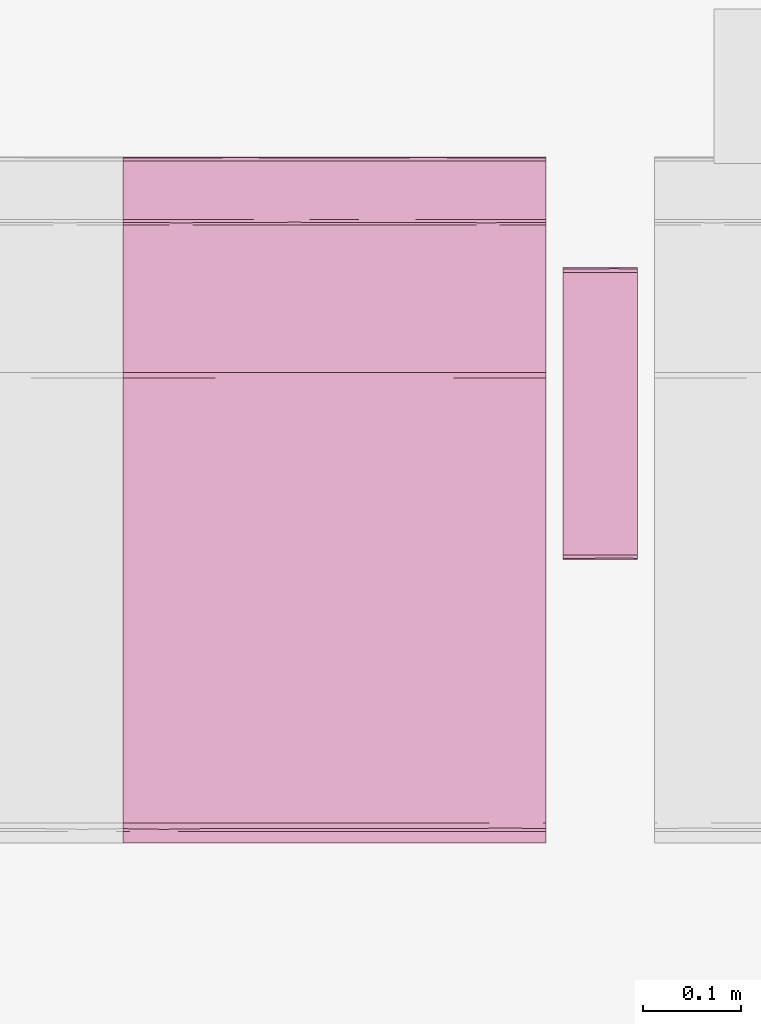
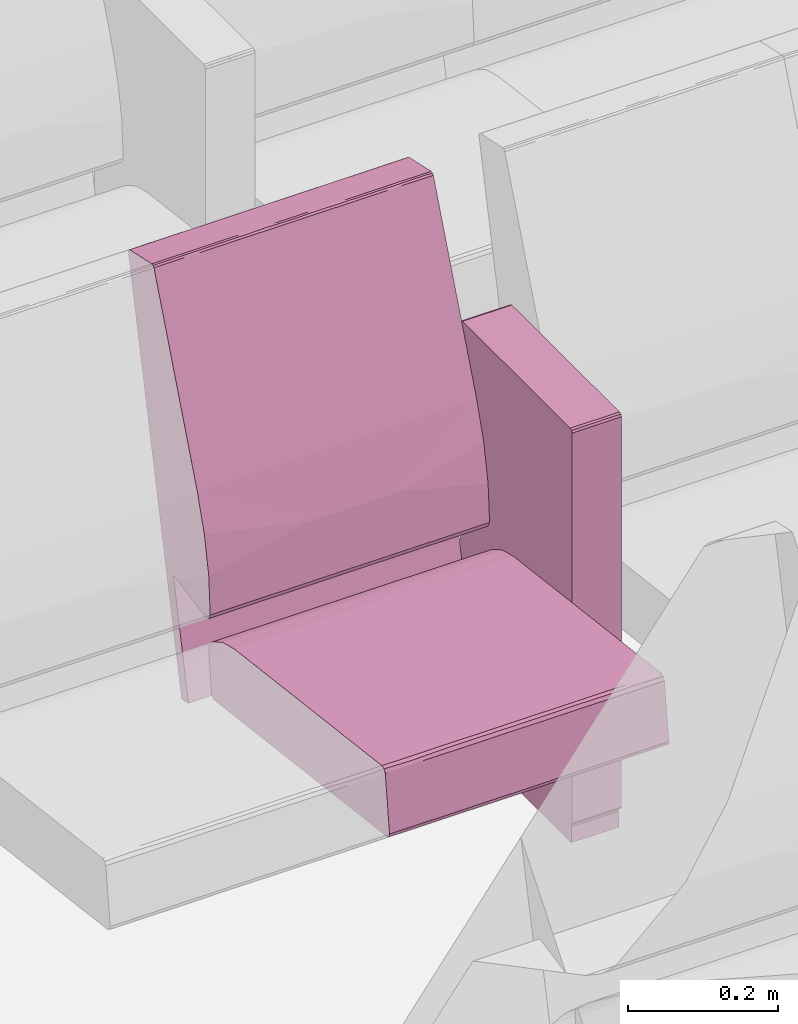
# One storey, part 98 of 155: 1 furnishing.
"""IFC2X3 building model written with IfcOpenShell, lengths in metres."""

from ifc_helpers import new_model, entity, si_unit, converted_unit, derived_unit, direction, frame, origin, place, context, subcontext, project, spatial, faceted_brep, source, transform, mapped, material, material_list, type_object, type_shapes, element, save


model = new_model("IFC2X3")

# Units and contexts
model_context = context("Model", 3, precision=1e-05, world=origin(), true_north=direction((6.12303176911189e-17, 1.0)))
body_context = subcontext(model_context, "Body", "Model", "MODEL_VIEW")
ifc_project = project(units=[si_unit("LENGTHUNIT", "METRE"), si_unit("AREAUNIT", "SQUARE_METRE"), si_unit("VOLUMEUNIT", "CUBIC_METRE"), converted_unit("PLANEANGLEUNIT", "DEGREE", entity("IfcRatioMeasure", 0.0174532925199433), si_unit("PLANEANGLEUNIT", "RADIAN"), dimensions=[0, 0, 0, 0, 0, 0, 0]), si_unit("MASSUNIT", "GRAM", prefix="KILO"), derived_unit("MASSDENSITYUNIT", [(si_unit("MASSUNIT", "GRAM", prefix="KILO"), 1), (si_unit("LENGTHUNIT", "METRE"), -3)]), si_unit("TIMEUNIT", "SECOND"), si_unit("FREQUENCYUNIT", "HERTZ"), si_unit("THERMODYNAMICTEMPERATUREUNIT", "DEGREE_CELSIUS"), derived_unit("THERMALTRANSMITTANCEUNIT", [(si_unit("MASSUNIT", "GRAM", prefix="KILO"), 1), (si_unit("THERMODYNAMICTEMPERATUREUNIT", "KELVIN"), -1), (si_unit("TIMEUNIT", "SECOND"), -3)]), derived_unit("VOLUMETRICFLOWRATEUNIT", [(si_unit("LENGTHUNIT", "METRE"), 3), (si_unit("TIMEUNIT", "SECOND"), -1)]), si_unit("ELECTRICCURRENTUNIT", "AMPERE"), si_unit("ELECTRICVOLTAGEUNIT", "VOLT"), si_unit("POWERUNIT", "WATT"), si_unit("FORCEUNIT", "NEWTON", prefix="KILO"), si_unit("ILLUMINANCEUNIT", "LUX"), si_unit("LUMINOUSFLUXUNIT", "LUMEN"), si_unit("LUMINOUSINTENSITYUNIT", "CANDELA"), derived_unit("USERDEFINED", [(si_unit("MASSUNIT", "GRAM", prefix="KILO"), -1), (si_unit("LENGTHUNIT", "METRE"), -2), (si_unit("TIMEUNIT", "SECOND"), 3), (si_unit("LUMINOUSFLUXUNIT", "LUMEN"), 1)]), derived_unit("LINEARVELOCITYUNIT", [(si_unit("LENGTHUNIT", "METRE"), 1), (si_unit("TIMEUNIT", "SECOND"), -1)]), si_unit("PRESSUREUNIT", "PASCAL"), derived_unit("USERDEFINED", [(si_unit("LENGTHUNIT", "METRE"), -2), (si_unit("MASSUNIT", "GRAM", prefix="KILO"), 1), (si_unit("TIMEUNIT", "SECOND"), -2)])], contexts=[model_context])

# Site, building, storey, space
site_placement = place(None, frame((26.9889013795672, -17.5624287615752, 0.0)))
site = spatial("IfcSite", under=ifc_project, at=site_placement, Name="Default", CompositionType="ELEMENT")
building_placement = place(site_placement, origin())
building = spatial("IfcBuilding", under=site, at=building_placement, Name="C. C. L. Monsenhor Antônio Sampaio", CompositionType="ELEMENT")
storey_placement = place(building_placement, frame((0.0, 0.0, 1.19999999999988)))
storey = spatial("IfcBuildingStorey", under=building, at=storey_placement, Name="Nível 1.2", CompositionType="ELEMENT", Elevation=1.19999999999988)
space_placement = place(storey_placement, origin())
space = spatial("IfcSpace", under=storey, at=space_placement, Name="94", CompositionType="ELEMENT", InteriorOrExteriorSpace="INTERNAL")

# Furnishing
ifc_material_1 = material(Name="V9 - V9 - Ecopelle_672_658")
ifc_material_2 = material(Name="V9 - V9 - RAL_9006_Grigio")
ifc_material_list_1 = material_list([ifc_material_1, ifc_material_2])
ifc_material_list_2 = material_list([ifc_material_1, ifc_material_2])
furniture_type = type_object("IfcFurnitureType", Name="Cadeira auditório", material=ifc_material_list_2)
shared_shape = source(origin(), body_context, "Body", "Brep", [
    faceted_brep([(0.405536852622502, -0.1075, 0.339809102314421), (0.410560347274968, -0.131924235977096, 0.34246450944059), (0.405536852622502, -0.156348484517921, 0.339809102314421), (0.41079981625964, -0.0179166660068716, 0.342749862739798), (0.410597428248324, -0.084060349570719, 0.342506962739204), (0.405536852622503, -0.0537499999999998, 0.339809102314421), (0.410248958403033, -0.173608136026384, 0.342130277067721), (0.405536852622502, -0.215, 0.339809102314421), (0.412515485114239, -0.143333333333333, 0.348529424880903), (0.412515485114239, -0.185674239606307, 0.348529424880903), (0.405536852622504, 0.1075, 0.33980910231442), (0.405536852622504, 0.156348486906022, 0.33980910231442), (0.410560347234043, 0.131924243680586, 0.342464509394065), (0.405536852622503, 0.0, 0.33980910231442), (0.411170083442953, 0.0341365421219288, 0.343251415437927), (0.41251548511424, 0.0, 0.348529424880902), (0.412515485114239, -0.0358333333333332, 0.348529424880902), (0.412515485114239, -0.0716666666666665, 0.348529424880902), (0.41251548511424, 0.143333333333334, 0.348529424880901), (0.41059742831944, 0.0840603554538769, 0.342506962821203), (0.405536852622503, 0.0537500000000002, 0.33980910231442), (0.410248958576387, 0.173608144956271, 0.342130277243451), (0.410799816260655, 0.215, 0.342749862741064), (0.412515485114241, 0.185674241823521, 0.348529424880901), (0.412515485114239, -0.215, 0.348529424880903), (0.410799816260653, -0.215, 0.342749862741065), (0.412515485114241, 0.215, 0.348529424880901), (0.41251548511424, 0.0716666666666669, 0.348529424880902), (0.405536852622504, 0.215, 0.33980910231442), (-0.0557900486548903, -0.215, 0.28268145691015), (-0.0557900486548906, -0.1881249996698, 0.282681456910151), (-0.0557900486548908, -0.161250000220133, 0.282681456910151), (-0.055790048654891, -0.134374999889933, 0.282681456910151), (-0.0557900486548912, -0.107499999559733, 0.282681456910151), (-0.0557900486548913, -0.0806250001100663, 0.282681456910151), (-0.0557900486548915, -0.0537499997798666, 0.282681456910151), (-0.0557900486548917, -0.0268749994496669, 0.282681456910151), (-0.0557900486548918, 0.0, 0.28268145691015), (-0.0557900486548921, 0.0268750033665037, 0.282681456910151), (-0.0557900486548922, 0.0537499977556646, 0.282681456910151), (-0.0557900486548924, 0.0806249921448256, 0.282681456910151), (-0.0557900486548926, 0.107499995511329, 0.282681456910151), (-0.0557900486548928, 0.138065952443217, 0.282681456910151), (-0.055790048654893, 0.168631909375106, 0.282681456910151), (-0.0557900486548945, 0.215, 0.28268145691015), (-0.0594787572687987, -0.0179017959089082, 0.283700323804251), (-0.0613666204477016, 0.0, 0.287029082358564), (-0.0594787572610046, 0.0152829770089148, 0.283700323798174), (-0.0594787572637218, -0.215, 0.283700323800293), (-0.0613666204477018, -0.215, 0.287029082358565), (-0.0613666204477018, -0.191815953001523, 0.287029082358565), (-0.0613666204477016, -0.030565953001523, 0.287029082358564), (-0.0593340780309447, -0.0671874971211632, 0.283591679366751), (-0.0593337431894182, 0.184174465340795, 0.283591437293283), (-0.0594787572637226, 0.215, 0.283700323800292), (-0.0593023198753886, 0.0940625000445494, 0.283568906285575), (-0.0613666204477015, 0.0611319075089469, 0.287029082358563), (-0.0613666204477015, 0.0916978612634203, 0.287029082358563), (-0.0613666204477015, 0.122263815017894, 0.287029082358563), (-0.0597338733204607, -0.147039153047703, 0.283913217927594), (-0.0613666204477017, -0.122263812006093, 0.287029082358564), (-0.059382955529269, -0.118123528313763, 0.28362747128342), (-0.0592501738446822, -0.180223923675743, 0.283532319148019), (-0.0613666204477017, -0.168631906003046, 0.287029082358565), (-0.0588783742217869, -0.0926899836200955, 0.283298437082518), (-0.0613666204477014, 0.168631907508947, 0.287029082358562), (-0.0613666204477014, 0.215, 0.287029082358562), (-0.0592576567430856, 0.123736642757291, 0.283537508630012), (-0.0594787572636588, 0.153348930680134, 0.283700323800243), (-0.0613666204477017, -0.0916978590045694, 0.287029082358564), (-0.0613666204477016, 0.0305659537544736, 0.287029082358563), (-0.059645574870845, 0.045848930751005, 0.283836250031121), (-0.0613666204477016, -0.0611319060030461, 0.287029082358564), (-0.0693403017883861, 0.143333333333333, 0.351419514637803), (-0.069340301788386, 0.215, 0.351419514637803), (-0.0693403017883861, -0.215, 0.351419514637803), (-0.0693403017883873, -0.143333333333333, 0.351419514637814), (-0.069340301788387, -0.0716666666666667, 0.351419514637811), (-0.0693403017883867, 0.0, 0.351419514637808), (-0.0693403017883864, 0.0716666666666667, 0.351419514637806), (-0.0653387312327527, -0.0126787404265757, 0.368680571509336), (-0.0645543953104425, -0.112272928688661, 0.369803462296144), (-0.0597085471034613, 0.0, 0.37476954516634), (-0.0655136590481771, 0.104400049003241, 0.368411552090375), (-0.0681665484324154, 0.0888707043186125, 0.36292533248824), (-0.0694879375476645, -0.0590582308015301, 0.356377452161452), (-0.0695056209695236, 0.125492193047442, 0.356093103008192), (-0.0597085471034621, 0.110316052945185, 0.374769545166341), (-0.0676206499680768, -0.215, 0.364371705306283), (-0.0672851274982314, -0.108066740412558, 0.365148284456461), (-0.0690003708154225, -0.132942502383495, 0.359900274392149), (-0.068624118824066, -0.215, 0.356813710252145), (-0.0686241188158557, 0.214999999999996, 0.356813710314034), (-0.0694502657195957, 0.0358333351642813, 0.356863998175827), (-0.0686999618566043, -0.035833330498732, 0.36116674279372), (-0.067620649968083, 0.214999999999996, 0.364371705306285), (-0.063664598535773, 0.214999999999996, 0.369570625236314), (-0.0597085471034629, 0.214999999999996, 0.374769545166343), (-0.0597085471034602, -0.110316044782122, 0.374769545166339), (-0.0636645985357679, -0.215, 0.36957062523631), (-0.0597085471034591, -0.215, 0.374769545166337), (-0.0018793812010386, -0.215, 0.398686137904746), (-0.0324117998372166, -0.0436847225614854, 0.39063968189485), (-0.0324117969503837, -0.215, 0.390639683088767), (-0.041847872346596, 0.0856576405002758, 0.386239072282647), (-0.00187938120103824, 0.102488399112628, 0.398686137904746), (-0.00187938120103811, 0.215, 0.398686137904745), (-0.0324117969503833, 0.215, 0.390639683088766), (-0.0219042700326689, 0.0570631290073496, 0.394412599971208), (-0.00187938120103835, 0.0, 0.398686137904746), (0.392202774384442, -0.215, 0.447486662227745), (0.392202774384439, -0.156349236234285, 0.447486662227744), (0.392202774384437, -0.107499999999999, 0.447486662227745), (0.392202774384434, -0.0537499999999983, 0.447486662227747), (0.392202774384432, 0.0, 0.447486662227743), (0.392202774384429, 0.0537500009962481, 0.44748666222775), (0.392202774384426, 0.107500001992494, 0.447486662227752), (0.392202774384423, 0.156349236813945, 0.447486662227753), (0.392202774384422, 0.215, 0.447486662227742), (0.397860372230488, 0.0827732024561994, 0.446039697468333), (0.401125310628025, 0.0976984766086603, 0.440530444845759), (0.398104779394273, 0.131924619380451, 0.445856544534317), (0.397373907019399, 0.173462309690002, 0.446363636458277), (0.401125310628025, 0.156349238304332, 0.440530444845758), (0.401125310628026, 0.215000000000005, 0.440530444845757), (0.398104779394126, 0.215000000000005, 0.445856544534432), (0.397860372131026, -0.0827731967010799, 0.446039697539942), (0.398104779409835, -0.131924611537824, 0.445856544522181), (0.398104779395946, -0.0268749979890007, 0.445856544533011), (0.398104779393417, 0.0237489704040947, 0.445856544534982), (0.401125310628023, -0.0488492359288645, 0.440530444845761), (0.401125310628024, 0.0488492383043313, 0.44053044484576), (0.398774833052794, -0.173462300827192, 0.445271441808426), (0.401125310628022, -0.0976984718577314, 0.440530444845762), (0.39810477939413, -0.215, 0.445856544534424), (0.401125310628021, -0.215, 0.440530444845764), (0.401125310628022, -0.156349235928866, 0.440530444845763), (0.401125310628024, 0.0, 0.44053044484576)], [[[0, 1, 2]], [[3, 4, 5]], [[2, 6, 7]], [[8, 9, 6]], [[10, 11, 12]], [[13, 3, 5]], [[3, 14, 15]], [[1, 4, 8]], [[6, 1, 8]], [[4, 3, 16]], [[16, 17, 8, 4]], [[12, 18, 19]], [[4, 1, 0]], [[20, 14, 13]], [[21, 22, 23]], [[15, 16, 3]], [[9, 24, 25]], [[26, 23, 22]], [[7, 6, 25]], [[12, 11, 21]], [[19, 14, 20]], [[4, 0, 5]], [[14, 27, 15]], [[13, 14, 3]], [[19, 18, 27]], [[19, 10, 12]], [[18, 21, 23]], [[10, 19, 20]], [[19, 27, 14]], [[2, 1, 6]], [[21, 11, 28]], [[25, 6, 9]], [[18, 12, 21]], [[22, 21, 28]], [[28, 11, 10, 20, 13, 5, 0, 2, 7, 29, 30, 31, 32, 33, 34, 35, 36, 37, 38, 39, 40, 41, 42, 43, 44]], [[45, 46, 47]], [[48, 49, 50]], [[51, 45, 52]], [[53, 54, 44]], [[55, 56, 57, 58]], [[59, 60, 61]], [[62, 63, 59]], [[34, 64, 52]], [[53, 65, 66]], [[41, 67, 42]], [[37, 36, 35, 45, 47, 38]], [[43, 42, 68]], [[29, 48, 30]], [[59, 31, 62]], [[62, 48, 50]], [[61, 69, 64]], [[65, 53, 68]], [[50, 63, 62]], [[62, 30, 48]], [[55, 58, 67]], [[32, 31, 59]], [[46, 70, 47]], [[65, 68, 58]], [[55, 40, 71]], [[70, 56, 71]], [[61, 33, 32]], [[59, 63, 60]], [[39, 38, 71, 40]], [[47, 71, 38]], [[51, 46, 45]], [[70, 71, 47]], [[71, 56, 55]], [[40, 55, 41]], [[67, 68, 42]], [[43, 68, 53]], [[43, 53, 44]], [[66, 54, 53]], [[68, 67, 58]], [[55, 67, 41]], [[72, 51, 52, 69]], [[62, 31, 30]], [[59, 61, 32]], [[35, 52, 45]], [[64, 34, 33]], [[34, 52, 35]], [[61, 60, 69]], [[52, 64, 69]], [[61, 64, 33]], [[73, 74, 66, 65, 58, 57, 56, 70, 46, 51, 72, 69, 60, 63, 50, 49, 75, 76, 77, 78, 79]], [[80, 81, 82]], [[83, 84, 80]], [[85, 78, 77, 76]], [[73, 79, 86]], [[80, 82, 83]], [[87, 83, 82]], [[88, 89, 90]], [[76, 75, 91]], [[92, 74, 73]], [[91, 90, 85]], [[80, 89, 81]], [[84, 93, 94]], [[84, 86, 93]], [[93, 78, 85]], [[73, 86, 92]], [[94, 93, 85]], [[95, 92, 84]], [[78, 93, 79]], [[80, 84, 94]], [[83, 96, 95]], [[94, 85, 90]], [[87, 97, 96]], [[98, 99, 100]], [[91, 85, 76]], [[94, 90, 89]], [[90, 91, 88]], [[89, 80, 94]], [[89, 99, 81]], [[89, 88, 99]], [[82, 81, 98]], [[81, 99, 98]], [[92, 86, 84]], [[93, 86, 79]], [[84, 83, 95]], [[96, 83, 87]], [[101, 102, 103]], [[104, 97, 87, 82]], [[105, 106, 107]], [[107, 108, 105]], [[109, 102, 101]], [[82, 102, 104]], [[102, 108, 104]], [[103, 102, 100]], [[97, 104, 107]], [[104, 108, 107]], [[102, 82, 98, 100]], [[105, 108, 109]], [[108, 102, 109]], [[109, 101, 110, 111, 112, 113, 114, 115, 116, 117, 118, 106, 105]], [[119, 120, 121]], [[122, 123, 124]], [[122, 125, 118]], [[126, 113, 112]], [[117, 121, 122]], [[121, 117, 116]], [[112, 111, 127]], [[113, 128, 129, 115, 114]], [[126, 130, 128]], [[129, 131, 119]], [[111, 132, 127]], [[132, 111, 110]], [[133, 126, 127]], [[123, 122, 121]], [[132, 134, 135]], [[127, 132, 136]], [[123, 121, 120]], [[127, 136, 133]], [[129, 128, 130, 137, 131]], [[112, 127, 126]], [[126, 133, 130]], [[119, 121, 116]], [[113, 126, 128]], [[119, 115, 129]], [[119, 116, 115]], [[120, 119, 131]], [[117, 122, 118]], [[124, 125, 122]], [[136, 132, 135]], [[110, 134, 132]], [[137, 130, 133, 136, 135, 24, 9, 8, 17, 16, 15, 27, 18, 23, 26, 124, 123, 120, 131]], [[44, 54, 66, 74, 92, 95, 96, 97, 107, 106, 118, 125, 124, 26, 22, 28]], [[75, 49, 48, 29, 7, 25, 24, 135, 134, 110, 101, 103, 100, 99, 88, 91]]]),
    faceted_brep([(0.119812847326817, 0.27, 0.674900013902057), (0.12334838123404, 0.259944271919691, 0.6734355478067), (0.123144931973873, 0.283972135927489, 0.673627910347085), (0.124812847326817, 0.27, 0.669900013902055), (0.119812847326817, 0.232, 0.674900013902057), (0.12334838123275, 0.232, 0.673435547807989), (0.124812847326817, 0.308, 0.669900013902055), (0.119812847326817, 0.308, 0.674900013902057), (0.124812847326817, 0.249888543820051, 0.669900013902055), (0.124812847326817, 0.232, 0.669900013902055), (0.12334838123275, 0.308, 0.673435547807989), (0.124812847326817, 0.232, 0.0349999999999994), (0.124812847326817, 0.27, 0.035), (0.124812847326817, 0.308, 0.035), (0.12334838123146, 0.25994427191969, 0.0314644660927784), (0.123540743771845, 0.283972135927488, 0.0316679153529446), (0.119812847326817, 0.27, 0.0300000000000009), (0.12334838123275, 0.232, 0.0314644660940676), (0.119812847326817, 0.308, 0.0300000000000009), (0.119812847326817, 0.249888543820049, 0.030000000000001), (0.119812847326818, 0.232, 0.030000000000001), (0.123348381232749, 0.308, 0.0314644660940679), (-0.167179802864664, 0.27, 0.0300000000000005), (-0.167179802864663, 0.308, 0.0300000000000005), (-0.167179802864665, 0.232, 0.0300000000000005), (-0.170715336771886, 0.25994427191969, 0.0314644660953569), (-0.17051188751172, 0.283972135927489, 0.0312721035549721), (-0.172179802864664, 0.27, 0.0350000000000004), (-0.170715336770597, 0.232, 0.0314644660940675), (-0.172179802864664, 0.308, 0.0350000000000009), (-0.172179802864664, 0.24988854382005, 0.0350000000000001), (-0.172179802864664, 0.232, 0.0349999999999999), (-0.170715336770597, 0.308, 0.0314644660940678), (-0.172179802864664, 0.308, 0.669900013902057), (-0.172179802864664, 0.232, 0.669900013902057), (-0.172179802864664, 0.27, 0.669900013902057), (-0.170715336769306, 0.259944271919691, 0.673435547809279), (-0.170907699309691, 0.283972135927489, 0.673232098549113), (-0.167179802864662, 0.27, 0.674900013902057), (-0.170715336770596, 0.232, 0.67343554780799), (-0.167179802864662, 0.308, 0.674900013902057), (-0.167179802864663, 0.249888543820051, 0.674900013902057), (-0.167179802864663, 0.232, 0.674900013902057), (-0.170715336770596, 0.308, 0.67343554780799)], [[[0, 1, 2]], [[3, 2, 1]], [[0, 4, 5, 1]], [[2, 3, 6]], [[0, 2, 7]], [[8, 3, 1, 5, 9]], [[7, 2, 10]], [[6, 10, 2]], [[9, 11, 12, 13, 6, 3, 8]], [[12, 14, 15]], [[16, 15, 14]], [[12, 11, 17, 14]], [[15, 16, 18]], [[12, 15, 13]], [[19, 16, 14, 17, 20]], [[13, 15, 21]], [[18, 21, 15]], [[22, 23, 18, 16, 19, 20, 24]], [[22, 25, 26]], [[27, 26, 25]], [[22, 24, 28, 25]], [[26, 27, 29]], [[22, 26, 23]], [[30, 27, 25, 28, 31]], [[23, 26, 32]], [[29, 32, 26]], [[33, 29, 27, 30, 31, 34, 35]], [[35, 36, 37]], [[38, 37, 36]], [[35, 34, 39, 36]], [[37, 38, 40]], [[35, 37, 33]], [[41, 38, 36, 39, 42]], [[33, 37, 43]], [[40, 43, 37]], [[0, 7, 40, 38, 41, 42, 4]], [[42, 39, 34, 31, 28, 24, 20, 17, 11, 9, 5, 4]], [[23, 32, 29, 33, 43, 40, 7, 10, 6, 13, 21, 18]]]),
    faceted_brep([(-0.0655618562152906, -0.215, 0.415143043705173), (-0.0744051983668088, -0.0524423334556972, 0.506888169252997), (-0.0695672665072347, -0.215, 0.476508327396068), (-0.0655618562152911, 0.0, 0.415143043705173), (-0.0744051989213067, 0.0780075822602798, 0.506888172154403), (-0.0655618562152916, 0.1075, 0.415143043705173), (-0.0655618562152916, 0.215, 0.415143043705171), (-0.0655618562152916, -0.1075, 0.415143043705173), (-0.0695672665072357, 0.215, 0.476508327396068), (-0.0811110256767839, 0.215, 0.536911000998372), (-0.0811110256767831, -0.215, 0.536911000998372), (-0.100016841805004, 0.0, 0.595428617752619), (-0.100016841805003, -0.215, 0.595428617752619), (-0.100016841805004, 0.215, 0.595428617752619), (-0.0792851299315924, -0.0716666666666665, 0.404772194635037), (-0.0792851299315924, 0.0, 0.404772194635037), (-0.0698317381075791, -0.0358333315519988, 0.406528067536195), (-0.0698317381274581, 0.215, 0.406528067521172), (-0.0792851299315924, 0.143333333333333, 0.404772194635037), (-0.0792851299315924, 0.215, 0.404772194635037), (-0.0698317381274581, -0.215, 0.406528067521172), (-0.0792851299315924, -0.215, 0.404772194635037), (-0.0792851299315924, -0.143333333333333, 0.404772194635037), (-0.0694171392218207, -0.140338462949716, 0.406857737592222), (-0.0708115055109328, 0.0356393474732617, 0.405868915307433), (-0.0703502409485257, 0.107500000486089, 0.406159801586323), (-0.0792851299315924, 0.0716666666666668, 0.404772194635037), (-0.163837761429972, 0.215, 0.420611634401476), (-0.163837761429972, -0.215, 0.420611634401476), (-0.123612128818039, -0.215, 0.235917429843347), (-0.123612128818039, 0.215, 0.235917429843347), (-0.142059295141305, -0.215, 0.231899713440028), (-0.142059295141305, 0.215, 0.231899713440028), (-0.235388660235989, -0.215, 0.652619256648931), (-0.235388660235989, 0.215, 0.652619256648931), (-0.28428001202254, 0.0, 0.873004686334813), (-0.284280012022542, 0.0268749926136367, 0.873004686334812), (-0.284280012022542, 0.0537499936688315, 0.873004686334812), (-0.284280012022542, 0.0806249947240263, 0.873004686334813), (-0.284280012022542, 0.107499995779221, 0.873004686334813), (-0.284280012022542, 0.134374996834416, 0.873004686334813), (-0.284280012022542, 0.161249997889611, 0.873004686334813), (-0.284280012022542, 0.191295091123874, 0.873004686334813), (-0.28428001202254, 0.215, 0.873004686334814), (-0.284280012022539, -0.215, 0.873004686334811), (-0.28428001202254, -0.191295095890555, 0.873004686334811), (-0.284280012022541, -0.161249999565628, 0.873004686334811), (-0.284280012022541, -0.134374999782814, 0.873004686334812), (-0.284280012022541, -0.1075, 0.873004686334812), (-0.284280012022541, -0.0806250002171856, 0.873004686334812), (-0.284280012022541, -0.0537500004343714, 0.873004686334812), (-0.284280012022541, -0.0268749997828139, 0.873004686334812), (-0.283504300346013, -0.0569644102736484, 0.877068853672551), (-0.283746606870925, -0.0872244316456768, 0.876674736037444), (-0.283641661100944, 0.12093750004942, 0.876855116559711), (-0.283567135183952, 0.15546176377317, 0.876973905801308), (-0.28330409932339, -0.185293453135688, 0.877344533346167), (-0.283567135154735, -0.155461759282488, 0.876973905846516), (-0.280514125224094, 0.0, 0.879190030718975), (-0.280514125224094, 0.0358333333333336, 0.879190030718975), (-0.283641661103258, 0.0136463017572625, 0.876855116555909), (-0.283641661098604, -0.0179166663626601, 0.876855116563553), (-0.280514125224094, -0.0358333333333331, 0.879190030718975), (-0.280514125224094, 0.1075, 0.879190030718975), (-0.280514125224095, 0.143333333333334, 0.879190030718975), (-0.283746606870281, 0.0872244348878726, 0.876674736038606), (-0.280514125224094, 0.071666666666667, 0.879190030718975), (-0.280514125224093, -0.1075, 0.879190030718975), (-0.280514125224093, -0.0716666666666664, 0.879190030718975), (-0.280514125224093, -0.143333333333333, 0.879190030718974), (-0.283641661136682, -0.120937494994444, 0.876855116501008), (-0.283641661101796, -0.215, 0.876855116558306), (-0.283641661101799, 0.215, 0.876855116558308), (-0.280514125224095, 0.167590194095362, 0.879190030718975), (-0.283304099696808, 0.18529345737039, 0.877344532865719), (-0.280514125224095, 0.215, 0.879190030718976), (-0.280514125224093, -0.167590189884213, 0.879190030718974), (-0.280514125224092, -0.215, 0.879190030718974), (-0.283504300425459, 0.0569644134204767, 0.8770688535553), (-0.221112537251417, -0.215, 0.892176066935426), (-0.221112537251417, -0.19181594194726, 0.892176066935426), (-0.221112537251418, -0.16124999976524, 0.892176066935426), (-0.221112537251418, -0.13437499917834, 0.892176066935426), (-0.221112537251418, -0.10749999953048, 0.892176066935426), (-0.221112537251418, -0.08062499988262, 0.892176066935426), (-0.221112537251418, -0.0537500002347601, 0.892176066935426), (-0.221112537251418, -0.0268750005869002, 0.892176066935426), (-0.221112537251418, 0.0, 0.892176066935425), (-0.221112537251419, 0.0268750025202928, 0.892176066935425), (-0.221112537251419, 0.053749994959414, 0.892176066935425), (-0.221112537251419, 0.0806249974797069, 0.892176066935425), (-0.221112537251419, 0.1075, 0.892176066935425), (-0.221112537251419, 0.134375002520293, 0.892176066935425), (-0.221112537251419, 0.161250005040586, 0.892176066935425), (-0.221112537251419, 0.191815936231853, 0.892176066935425), (-0.221112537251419, 0.215, 0.892176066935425), (-0.217722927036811, -0.0162353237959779, 0.891719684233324), (-0.215419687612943, -0.0358333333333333, 0.889191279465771), (-0.215419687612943, 0.0, 0.889191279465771), (-0.217722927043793, 0.0134375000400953, 0.891719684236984), (-0.217722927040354, 0.120937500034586, 0.89171968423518), (-0.217722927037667, 0.0912646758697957, 0.891719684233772), (-0.215419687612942, 0.0716666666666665, 0.88919127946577), (-0.215419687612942, 0.1075, 0.88919127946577), (-0.215419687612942, 0.143333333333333, 0.88919127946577), (-0.217722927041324, 0.215, 0.891719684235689), (-0.217722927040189, 0.182482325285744, 0.891719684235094), (-0.215419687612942, 0.168631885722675, 0.889191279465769), (-0.215419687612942, 0.191815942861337, 0.889191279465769), (-0.215419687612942, 0.215, 0.889191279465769), (-0.217722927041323, -0.215, 0.89171968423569), (-0.215419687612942, -0.215, 0.889191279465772), (-0.215419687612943, -0.191815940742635, 0.889191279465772), (-0.217722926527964, -0.190103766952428, 0.891719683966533), (-0.2179983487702, 0.039082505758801, 0.891853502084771), (-0.217816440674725, 0.0647800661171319, 0.891767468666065), (-0.217558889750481, 0.155982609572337, 0.891629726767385), (-0.217722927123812, -0.120937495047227, 0.891719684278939), (-0.217558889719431, -0.15598260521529, 0.891629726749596), (-0.215419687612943, -0.143333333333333, 0.889191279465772), (-0.215419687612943, -0.16863188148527, 0.889191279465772), (-0.215419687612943, -0.0716666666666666, 0.889191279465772), (-0.217816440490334, -0.0647800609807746, 0.891767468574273), (-0.217722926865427, -0.0912646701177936, 0.891719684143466), (-0.215419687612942, 0.0358333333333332, 0.889191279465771), (-0.215419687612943, -0.1075, 0.889191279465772), (-0.218257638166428, -0.0404491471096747, 0.891961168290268)], [[[0, 1, 2]], [[3, 4, 1]], [[4, 3, 5, 6]], [[1, 0, 7, 3]], [[8, 4, 6]], [[9, 4, 8]], [[1, 10, 2]], [[1, 11, 12]], [[9, 13, 4]], [[13, 11, 4]], [[10, 1, 12]], [[11, 1, 4]], [[14, 15, 16]], [[17, 18, 19]], [[20, 21, 22]], [[20, 23, 0]], [[3, 7, 16]], [[15, 24, 16]], [[24, 25, 5]], [[22, 23, 20]], [[7, 23, 16]], [[6, 5, 17]], [[16, 24, 3]], [[16, 23, 14]], [[23, 22, 14]], [[18, 25, 26]], [[18, 17, 25]], [[26, 24, 15]], [[7, 0, 23]], [[5, 25, 17]], [[25, 24, 26]], [[3, 24, 5]], [[27, 19, 18, 26, 15, 14, 22, 21, 28]], [[27, 28, 29, 30]], [[31, 32, 30, 29]], [[33, 34, 32, 31]], [[35, 36, 37, 38, 39, 40, 41, 42, 43, 34, 33, 44, 45, 46, 47, 48, 49, 50, 51]], [[52, 49, 53]], [[54, 55, 40]], [[46, 56, 57]], [[58, 59, 60, 61, 62]], [[54, 63, 64]], [[65, 66, 63]], [[67, 68, 53]], [[57, 69, 70]], [[45, 56, 46]], [[39, 54, 40]], [[45, 44, 71]], [[72, 43, 42]], [[35, 51, 61, 60, 36]], [[55, 73, 74]], [[39, 65, 54]], [[74, 73, 75]], [[67, 53, 70]], [[74, 42, 41]], [[64, 73, 55]], [[56, 76, 57]], [[74, 72, 42]], [[76, 56, 77]], [[56, 71, 77]], [[57, 76, 69]], [[48, 70, 53]], [[70, 48, 47]], [[60, 78, 36]], [[63, 54, 65]], [[71, 56, 45]], [[41, 55, 74]], [[72, 74, 75]], [[57, 70, 47]], [[47, 46, 57]], [[69, 67, 70]], [[50, 49, 52, 51]], [[52, 62, 61]], [[61, 51, 52]], [[55, 41, 40]], [[55, 54, 64]], [[66, 65, 78]], [[65, 38, 78]], [[52, 53, 68]], [[37, 36, 78, 38]], [[78, 59, 66]], [[59, 78, 60]], [[49, 48, 53]], [[65, 39, 38]], [[52, 68, 62]], [[79, 80, 81, 82, 83, 84, 85, 86, 87, 88, 89, 90, 91, 92, 93, 94, 95, 75, 73, 64, 63, 66, 59, 58, 62, 68, 67, 69, 76, 77]], [[96, 97, 98, 99]], [[100, 101, 102, 103, 104]], [[105, 106, 107, 108, 109]], [[110, 111, 112]], [[80, 110, 113]], [[89, 114, 115]], [[92, 116, 93]], [[94, 93, 106, 105, 95]], [[80, 79, 110]], [[92, 91, 90, 101, 100]], [[99, 88, 87, 86, 96]], [[104, 107, 116]], [[117, 83, 82]], [[117, 118, 119]], [[112, 120, 113]], [[118, 120, 119]], [[118, 81, 113]], [[116, 107, 106]], [[101, 90, 115]], [[121, 122, 123]], [[104, 116, 100]], [[110, 112, 113]], [[114, 99, 124]], [[92, 100, 116]], [[117, 125, 123]], [[82, 81, 118]], [[118, 117, 82]], [[83, 117, 123]], [[125, 117, 119]], [[102, 101, 115]], [[84, 83, 123]], [[123, 125, 121]], [[85, 84, 122]], [[89, 115, 90]], [[96, 86, 126]], [[124, 102, 115]], [[88, 99, 114]], [[99, 98, 124]], [[122, 121, 97]], [[126, 122, 97]], [[88, 114, 89]], [[115, 114, 124]], [[123, 122, 84]], [[126, 85, 122]], [[85, 126, 86]], [[96, 126, 97]], [[116, 106, 93]], [[80, 113, 81]], [[118, 113, 120]], [[12, 11, 13, 109, 108, 107, 104, 103, 102, 124, 98, 97, 121, 125, 119, 120, 112, 111]], [[30, 32, 34, 43, 72, 75, 95, 105, 109, 13, 9, 8, 6, 17, 19, 27]], [[77, 71, 44, 33, 31, 29, 28, 21, 20, 0, 2, 10, 12, 111, 110, 79]]]),
    faceted_brep([(0.120312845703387, 0.2335, 0.0), (0.120312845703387, 0.3065, 0.0), (0.120312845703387, 0.3065, 0.0260000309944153), (0.120312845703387, 0.27, 0.0260000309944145), (0.120312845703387, 0.249500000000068, 0.0260000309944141), (0.120312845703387, 0.2335, 0.0260000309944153), (-0.167687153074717, 0.2335, 0.0), (-0.167687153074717, 0.3065, 0.0), (-0.167687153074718, 0.3065, 0.0260000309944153), (-0.167687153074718, 0.2335, 0.0260000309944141), (-0.167687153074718, 0.27, 0.0260000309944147), (-0.163702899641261, 0.233500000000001, 0.0300000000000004), (-0.166521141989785, 0.257382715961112, 0.0288228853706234), (-0.166521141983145, 0.233500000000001, 0.0288228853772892), (-0.166521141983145, 0.3065, 0.0288228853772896), (-0.16652114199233, 0.279986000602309, 0.0288228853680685), (-0.163702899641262, 0.3065, 0.0300000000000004), (-0.163702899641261, 0.27, 0.0300000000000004), (0.116297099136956, 0.2335, 0.0300000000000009), (0.116297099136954, 0.270000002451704, 0.0300000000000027), (0.116297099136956, 0.3065, 0.0300000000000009), (0.119033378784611, 0.283124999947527, 0.0289323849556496), (0.119135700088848, 0.259750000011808, 0.0288340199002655), (0.1191357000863, 0.2335, 0.0288340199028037), (0.119135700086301, 0.3065, 0.0288340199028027)], [[[0, 1, 2, 3, 4, 5]], [[6, 7, 1, 0]], [[8, 7, 6, 9, 10]], [[11, 12, 13]], [[14, 15, 16]], [[17, 16, 15, 12, 11]], [[13, 12, 10, 9]], [[8, 15, 14]], [[12, 15, 8, 10]], [[16, 17, 11, 18, 19, 20]], [[3, 2, 21]], [[22, 19, 18, 23]], [[22, 23, 5, 4, 3]], [[20, 21, 24]], [[22, 3, 21]], [[19, 21, 20]], [[2, 24, 21]], [[19, 22, 21]], [[20, 24, 2, 1, 7, 8, 14, 16]], [[18, 11, 13, 9, 6, 0, 5, 23]]]),
])
type_shapes(furniture_type, [shared_shape])
furnishing_placement = place(space_placement, frame((-12.9959492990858, -13.3554126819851, 0.0), z_axis=(0.0, 0.0, 1.0), x_axis=(0.0, -1.0, 0.0)))
element("IfcFurnishingElement", 1, at=furnishing_placement, inside=space, type_object=furniture_type, material=ifc_material_list_1, Name="cadeira auditório pcd:Cadeira auditório", ObjectType="Cadeira auditório", context=body_context, shape_type="MappedRepresentation", body=[
    mapped(shared_shape, transform((0.0, 0.0, 0.0), scale=1.0)),
])

save(model, "model.ifc")
